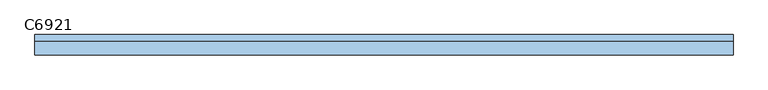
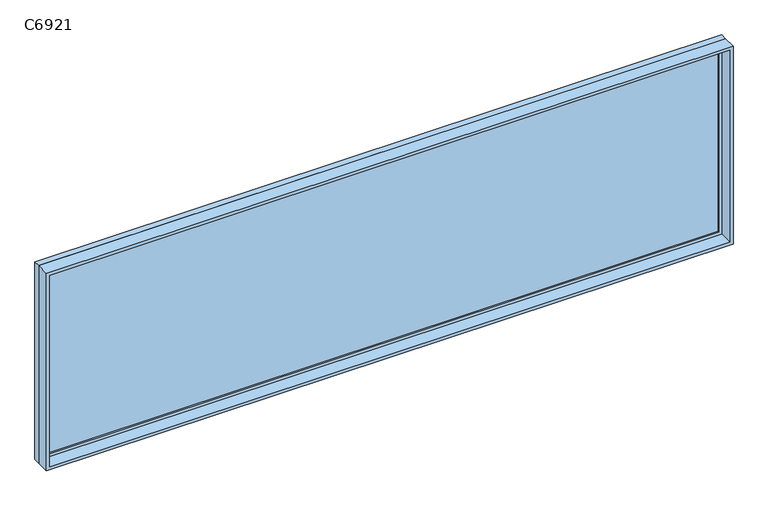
"""IFC4 building model written with IfcOpenShell, lengths in millimetres: window geometry, 固定 : C6921."""

from ifc_helpers import new_model, si_unit, frame, origin, place, context, project, spatial, polyline, outline, extrude, source, transform, mapped, element, save


def c6921_e650829c(model_context):
    return source(origin(), model_context, "Body", "SweptSolid", [
        extrude(outline(polyline([(-3387.0, 78.0), (3387.0, 78.0), (3387.0, 66.0), (-3387.0, 66.0), (-3387.0, 78.0)])), frame((0.0, 0.0, 978.0), z_axis=(0.0, 0.0, 1.0), x_axis=(1.0, 0.0, 0.0)), (0.0, 0.0, 1.0), 1974.0),
        extrude(outline(polyline([(2996.0, -3431.0), (934.0, -3431.0), (934.0, 3431.0), (2996.0, 3431.0), (2996.0, -3431.0)]), holes=[polyline([(2952.0, -3387.0), (2952.0, 3387.0), (978.0, 3387.0), (978.0, -3387.0), (2952.0, -3387.0)])]), frame((0.0, 50.0, 0.0), z_axis=(0.0, 1.0, 0.0), x_axis=(0.0, 0.0, 1.0)), (0.0, 0.0, 1.0), 44.0),
        extrude(outline(polyline([(3015.0, -3450.0), (915.0, -3450.0), (915.0, 3450.0), (3015.0, 3450.0), (3015.0, -3450.0)]), holes=[polyline([(2996.0, -3431.0), (2996.0, 3431.0), (934.0, 3431.0), (934.0, -3431.0), (2996.0, -3431.0)])]), frame((0.0, 50.0, 0.0), z_axis=(0.0, 1.0, 0.0), x_axis=(0.0, 0.0, 1.0)), (0.0, 0.0, 1.0), 63.0),
        extrude(outline(polyline([(3015.0, -3450.0), (915.0, -3450.0), (915.0, 3450.0), (3015.0, 3450.0), (3015.0, -3450.0)]), holes=[polyline([(2983.0, -3418.0), (2983.0, 3418.0), (947.0, 3418.0), (947.0, -3418.0), (2983.0, -3418.0)])]), frame((0.0, -87.0, 0.0), z_axis=(0.0, 1.0, 0.0), x_axis=(0.0, 0.0, 1.0)), (0.0, 0.0, 1.0), 137.0),
    ])


if __name__ == "__main__":
    model = new_model("IFC4")
    model_context = context("Model", 3, world=origin())
    ifc_project = project(units=[si_unit("LENGTHUNIT", "METRE", prefix="MILLI")], contexts=[model_context])
    site = spatial("IfcSite", under=ifc_project)
    building = spatial("IfcBuilding", under=site)
    placement = place(None, origin())
    c6921_shape = c6921_e650829c(model_context)
    element("IfcWindow", 1, ObjectType="固定 : C6921", at=placement, inside=building, context=model_context, shape_type="MappedRepresentation", body=[
        mapped(c6921_shape, transform((0.0, 0.0, 0.0), x_axis=(1.0, 0.0, 0.0), y_axis=(0.0, 1.0, 0.0), z_axis=(0.0, 0.0, 1.0))),
    ])
    save(model, "model.ifc")
